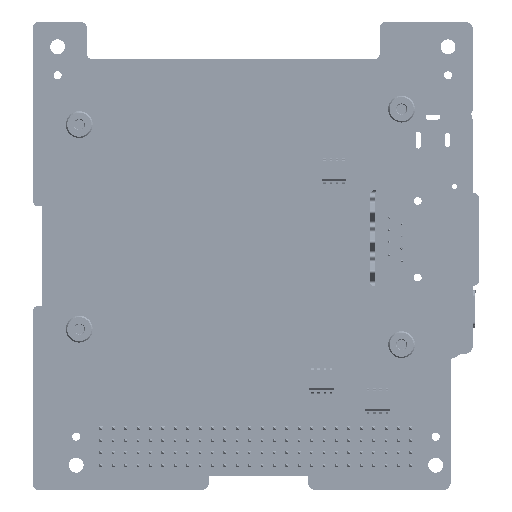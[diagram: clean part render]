
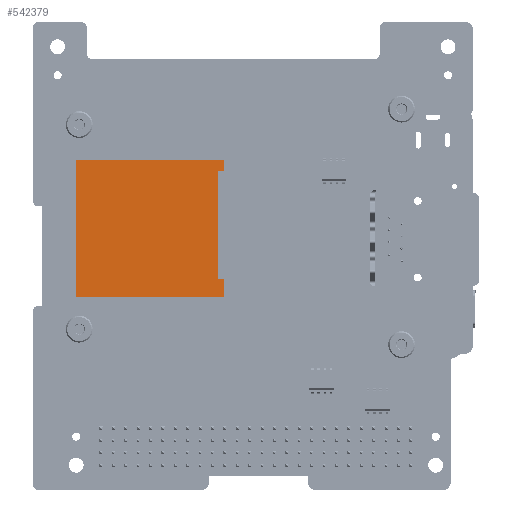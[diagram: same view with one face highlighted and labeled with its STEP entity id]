
A CAD part, front view. The second image highlights one B-rep face of the part: STEP entity #542379.
In plain terms, the highlighted planar face has unit normal (0, -1, 0).
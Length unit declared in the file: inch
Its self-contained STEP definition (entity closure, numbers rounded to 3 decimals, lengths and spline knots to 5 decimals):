
#1117 = CARTESIAN_POINT ( 'NONE',  ( -0.284, -0.144, 0.6835 ) ) ;
#4814 = EDGE_CURVE ( 'NONE', #591330, #265920, #641165, .T. ) ;
#7345 = VECTOR ( 'NONE', #189484, 39.37008 ) ;
#11620 = LINE ( 'NONE', #53701, #156807 ) ;
#15707 = CARTESIAN_POINT ( 'NONE',  ( -0.23, -0.144, -0.1885 ) ) ;
#15729 = ORIENTED_EDGE ( 'NONE', *, *, #461532, .T. ) ;
#23221 = DIRECTION ( 'NONE',  ( 0., 0., 1. ) ) ;
#26265 = CARTESIAN_POINT ( 'NONE',  ( -0.23, -0.144, 0.6835 ) ) ;
#42262 = CARTESIAN_POINT ( 'NONE',  ( -0.23, -0.144, 0.7725 ) ) ;
#53701 = CARTESIAN_POINT ( 'NONE',  ( -1.43, -0.144, 0.7725 ) ) ;
#56659 = LINE ( 'NONE', #155569, #260857 ) ;
#62446 = VECTOR ( 'NONE', #394693, 39.37008 ) ;
#79639 = LINE ( 'NONE', #125778, #62446 ) ;
#93780 = VERTEX_POINT ( 'NONE', #524337 ) ;
#115666 = EDGE_CURVE ( 'NONE', #621225, #249220, #424761, .T. ) ;
#125778 = CARTESIAN_POINT ( 'NONE',  ( -0.284, -0.144, -0.1885 ) ) ;
#148569 = CARTESIAN_POINT ( 'NONE',  ( -1.43, -0.144, 0.7725 ) ) ;
#155569 = CARTESIAN_POINT ( 'NONE',  ( -0.23, -0.144, -0.1885 ) ) ;
#156807 = VECTOR ( 'NONE', #367766, 39.37008 ) ;
#169761 = ORIENTED_EDGE ( 'NONE', *, *, #696683, .T. ) ;
#180389 = DIRECTION ( 'NONE',  ( 1., 0., 0. ) ) ;
#189484 = DIRECTION ( 'NONE',  ( 0., 0., 1. ) ) ;
#200585 = VECTOR ( 'NONE', #180389, 39.37008 ) ;
#200984 = PLANE ( 'NONE',  #348391 ) ;
#203300 = DIRECTION ( 'NONE',  ( -1., 0., 0. ) ) ;
#206710 = VECTOR ( 'NONE', #23221, 39.37008 ) ;
#210268 = DIRECTION ( 'NONE',  ( 0., 0., 1. ) ) ;
#217937 = VERTEX_POINT ( 'NONE', #458031 ) ;
#235084 = DIRECTION ( 'NONE',  ( 1., 0., 0. ) ) ;
#249220 = VERTEX_POINT ( 'NONE', #1117 ) ;
#255166 = EDGE_CURVE ( 'NONE', #249220, #591330, #345292, .T. ) ;
#260857 = VECTOR ( 'NONE', #210268, 39.37008 ) ;
#265572 = FACE_OUTER_BOUND ( 'NONE', #471055, .T. ) ;
#265920 = VERTEX_POINT ( 'NONE', #42262 ) ;
#298245 = EDGE_CURVE ( 'NONE', #471150, #93780, #11620, .T. ) ;
#345292 = LINE ( 'NONE', #346829, #200585 ) ;
#346829 = CARTESIAN_POINT ( 'NONE',  ( -0.23, -0.144, 0.6835 ) ) ;
#348059 = ORIENTED_EDGE ( 'NONE', *, *, #518937, .T. ) ;
#348391 = AXIS2_PLACEMENT_3D ( 'NONE', #148569, #529274, #203300 ) ;
#348501 = ORIENTED_EDGE ( 'NONE', *, *, #255166, .T. ) ;
#367766 = DIRECTION ( 'NONE',  ( 0., 0., -1. ) ) ;
#388235 = EDGE_CURVE ( 'NONE', #217937, #637753, #56659, .T. ) ;
#393109 = LINE ( 'NONE', #561158, #682906 ) ;
#394693 = DIRECTION ( 'NONE',  ( -1., 0., 0. ) ) ;
#396248 = VECTOR ( 'NONE', #453905, 39.37008 ) ;
#424761 = LINE ( 'NONE', #515400, #7345 ) ;
#448797 = CARTESIAN_POINT ( 'NONE',  ( -0.284, -0.144, -0.1885 ) ) ;
#453905 = DIRECTION ( 'NONE',  ( -1., 0., 0. ) ) ;
#458031 = CARTESIAN_POINT ( 'NONE',  ( -0.23, -0.144, -0.3315 ) ) ;
#461532 = EDGE_CURVE ( 'NONE', #93780, #217937, #393109, .T. ) ;
#471055 = EDGE_LOOP ( 'NONE', ( #169761, #520052, #15729, #471384, #348059, #474135, #348501, #586283 ) ) ;
#471150 = VERTEX_POINT ( 'NONE', #582756 ) ;
#471384 = ORIENTED_EDGE ( 'NONE', *, *, #388235, .T. ) ;
#474135 = ORIENTED_EDGE ( 'NONE', *, *, #115666, .T. ) ;
#513630 = CARTESIAN_POINT ( 'NONE',  ( -0.23, -0.144, 0.7725 ) ) ;
#515400 = CARTESIAN_POINT ( 'NONE',  ( -0.284, -0.144, 0.6835 ) ) ;
#518937 = EDGE_CURVE ( 'NONE', #637753, #621225, #79639, .T. ) ;
#520052 = ORIENTED_EDGE ( 'NONE', *, *, #298245, .T. ) ;
#524337 = CARTESIAN_POINT ( 'NONE',  ( -1.43, -0.144, -0.3315 ) ) ;
#529274 = DIRECTION ( 'NONE',  ( 0., -1., 0. ) ) ;
#541072 = LINE ( 'NONE', #670861, #396248 ) ;
#542379 = ADVANCED_FACE ( 'NONE', ( #265572 ), #200984, .T. ) ;
#561158 = CARTESIAN_POINT ( 'NONE',  ( -0.23, -0.144, -0.3315 ) ) ;
#582756 = CARTESIAN_POINT ( 'NONE',  ( -1.43, -0.144, 0.7725 ) ) ;
#586283 = ORIENTED_EDGE ( 'NONE', *, *, #4814, .T. ) ;
#591330 = VERTEX_POINT ( 'NONE', #26265 ) ;
#621225 = VERTEX_POINT ( 'NONE', #448797 ) ;
#637753 = VERTEX_POINT ( 'NONE', #15707 ) ;
#641165 = LINE ( 'NONE', #513630, #206710 ) ;
#670861 = CARTESIAN_POINT ( 'NONE',  ( -0.23, -0.144, 0.7725 ) ) ;
#682906 = VECTOR ( 'NONE', #235084, 39.37008 ) ;
#696683 = EDGE_CURVE ( 'NONE', #265920, #471150, #541072, .T. ) ;
